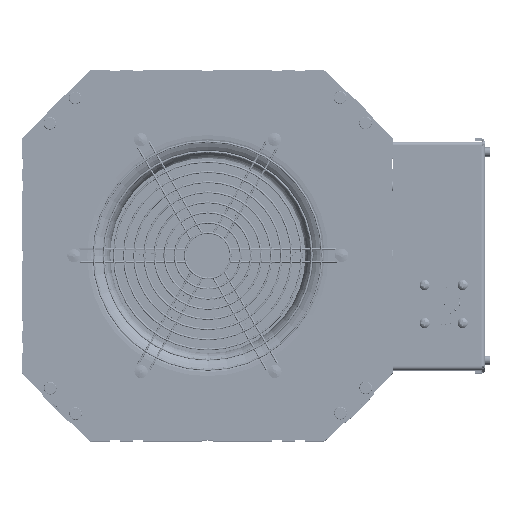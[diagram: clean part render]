
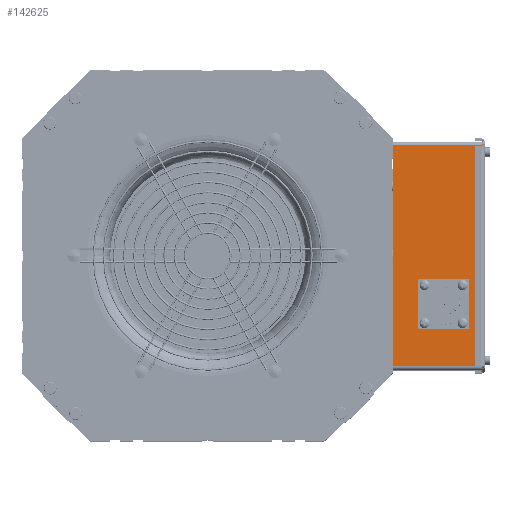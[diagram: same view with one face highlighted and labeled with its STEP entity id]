
A CAD part, top view. The second image highlights one B-rep face of the part: STEP entity #142625.
In plain terms, the highlighted planar face has unit normal (0, 0, 1) as drawn and (-1, 0, 0) by its records, which use the part's own axes.
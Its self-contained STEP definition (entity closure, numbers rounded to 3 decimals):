
#140227=DIRECTION('',(0.,0.,1.));
#140228=VECTOR('',#140227,174.);
#140229=CARTESIAN_POINT('',(-100.,0.,-87.));
#140230=LINE('',#140229,#140228);
#140394=DIRECTION('',(0.,-1.,0.));
#140395=VECTOR('',#140394,70.);
#140396=CARTESIAN_POINT('',(-100.,70.,-87.));
#140397=LINE('',#140396,#140395);
#140398=DIRECTION('',(0.,-1.,0.));
#140399=VECTOR('',#140398,70.);
#140400=CARTESIAN_POINT('',(-100.,70.,87.));
#140401=LINE('',#140400,#140399);
#140402=CARTESIAN_POINT('',(-100.,30.,-38.));
#140403=DIRECTION('',(-1.,0.,0.));
#140404=DIRECTION('',(0.,1.,0.));
#140405=AXIS2_PLACEMENT_3D('',#140402,#140403,#140404);
#140407=CARTESIAN_POINT('',(-100.,30.,-38.));
#140408=DIRECTION('',(-1.,0.,0.));
#140409=DIRECTION('',(0.,-1.,0.));
#140410=AXIS2_PLACEMENT_3D('',#140407,#140408,#140409);
#140412=CARTESIAN_POINT('',(-100.,45.,-53.));
#140413=DIRECTION('',(-1.,0.,0.));
#140414=DIRECTION('',(0.,1.,0.));
#140415=AXIS2_PLACEMENT_3D('',#140412,#140413,#140414);
#140417=CARTESIAN_POINT('',(-100.,45.,-53.));
#140418=DIRECTION('',(-1.,0.,0.));
#140419=DIRECTION('',(0.,-1.,0.));
#140420=AXIS2_PLACEMENT_3D('',#140417,#140418,#140419);
#140422=CARTESIAN_POINT('',(-100.,15.,-53.));
#140423=DIRECTION('',(-1.,0.,0.));
#140424=DIRECTION('',(0.,0.,-1.));
#140425=AXIS2_PLACEMENT_3D('',#140422,#140423,#140424);
#140427=CARTESIAN_POINT('',(-100.,15.,-53.));
#140428=DIRECTION('',(-1.,0.,0.));
#140429=DIRECTION('',(0.,0.,1.));
#140430=AXIS2_PLACEMENT_3D('',#140427,#140428,#140429);
#140432=CARTESIAN_POINT('',(-100.,15.,-23.));
#140433=DIRECTION('',(-1.,0.,0.));
#140434=DIRECTION('',(0.,-1.,0.));
#140435=AXIS2_PLACEMENT_3D('',#140432,#140433,#140434);
#140437=CARTESIAN_POINT('',(-100.,15.,-23.));
#140438=DIRECTION('',(-1.,0.,0.));
#140439=DIRECTION('',(0.,1.,0.));
#140440=AXIS2_PLACEMENT_3D('',#140437,#140438,#140439);
#140442=CARTESIAN_POINT('',(-100.,45.,-23.));
#140443=DIRECTION('',(-1.,0.,0.));
#140444=DIRECTION('',(0.,0.,1.));
#140445=AXIS2_PLACEMENT_3D('',#140442,#140443,#140444);
#140447=CARTESIAN_POINT('',(-100.,45.,-23.));
#140448=DIRECTION('',(-1.,0.,0.));
#140449=DIRECTION('',(0.,0.,-1.));
#140450=AXIS2_PLACEMENT_3D('',#140447,#140448,#140449);
#140484=DIRECTION('',(0.,0.,1.));
#140485=VECTOR('',#140484,174.);
#140486=CARTESIAN_POINT('',(-100.,70.,-87.));
#140487=LINE('',#140486,#140485);
#141958=CARTESIAN_POINT('',(-100.,0.,-87.));
#141960=VERTEX_POINT('',#141958);
#141964=CARTESIAN_POINT('',(-100.,70.,-87.));
#141965=VERTEX_POINT('',#141964);
#141983=CARTESIAN_POINT('',(-100.,0.,87.));
#141985=VERTEX_POINT('',#141983);
#141986=CARTESIAN_POINT('',(-100.,70.,87.));
#141987=VERTEX_POINT('',#141986);
#142262=CARTESIAN_POINT('',(-100.,46.,-38.));
#142263=CARTESIAN_POINT('',(-100.,14.,-38.));
#142264=VERTEX_POINT('',#142262);
#142265=VERTEX_POINT('',#142263);
#142278=CARTESIAN_POINT('',(-100.,46.75,-53.));
#142279=CARTESIAN_POINT('',(-100.,43.25,-53.));
#142280=VERTEX_POINT('',#142278);
#142281=VERTEX_POINT('',#142279);
#142359=CARTESIAN_POINT('',(-100.,15.,-54.75));
#142361=VERTEX_POINT('',#142359);
#142363=CARTESIAN_POINT('',(-100.,15.,-51.25));
#142365=VERTEX_POINT('',#142363);
#142375=CARTESIAN_POINT('',(-100.,13.25,-23.));
#142377=VERTEX_POINT('',#142375);
#142379=CARTESIAN_POINT('',(-100.,16.75,-23.));
#142381=VERTEX_POINT('',#142379);
#142391=CARTESIAN_POINT('',(-100.,45.,-21.25));
#142393=VERTEX_POINT('',#142391);
#142395=CARTESIAN_POINT('',(-100.,45.,-24.75));
#142397=VERTEX_POINT('',#142395);
#142583=CARTESIAN_POINT('',(-100.,0.,-90.));
#142584=DIRECTION('',(-1.,0.,0.));
#142585=DIRECTION('',(0.,0.,1.));
#142586=AXIS2_PLACEMENT_3D('',#142583,#142584,#142585);
#142587=PLANE('',#142586);
#142588=ORIENTED_EDGE('',*,*,#142482,.F.);
#142590=ORIENTED_EDGE('',*,*,#142589,.T.);
#142591=ORIENTED_EDGE('',*,*,#142575,.T.);
#142592=ORIENTED_EDGE('',*,*,#142405,.F.);
#142593=EDGE_LOOP('',(#142588,#142590,#142591,#142592));
#142594=FACE_OUTER_BOUND('',#142593,.F.);
#142596=ORIENTED_EDGE('',*,*,#142595,.T.);
#142598=ORIENTED_EDGE('',*,*,#142597,.T.);
#142599=EDGE_LOOP('',(#142596,#142598));
#142600=FACE_BOUND('',#142599,.F.);
#142602=ORIENTED_EDGE('',*,*,#142601,.T.);
#142604=ORIENTED_EDGE('',*,*,#142603,.T.);
#142605=EDGE_LOOP('',(#142602,#142604));
#142606=FACE_BOUND('',#142605,.F.);
#142608=ORIENTED_EDGE('',*,*,#142607,.T.);
#142610=ORIENTED_EDGE('',*,*,#142609,.T.);
#142611=EDGE_LOOP('',(#142608,#142610));
#142612=FACE_BOUND('',#142611,.F.);
#142614=ORIENTED_EDGE('',*,*,#142613,.T.);
#142616=ORIENTED_EDGE('',*,*,#142615,.T.);
#142617=EDGE_LOOP('',(#142614,#142616));
#142618=FACE_BOUND('',#142617,.F.);
#142620=ORIENTED_EDGE('',*,*,#142619,.T.);
#142622=ORIENTED_EDGE('',*,*,#142621,.T.);
#142623=EDGE_LOOP('',(#142620,#142622));
#142624=FACE_BOUND('',#142623,.F.);
#140406=CIRCLE('',#140405,16.);
#140411=CIRCLE('',#140410,16.);
#140416=CIRCLE('',#140415,1.75);
#140421=CIRCLE('',#140420,1.75);
#140426=CIRCLE('',#140425,1.75);
#140431=CIRCLE('',#140430,1.75);
#140436=CIRCLE('',#140435,1.75);
#140441=CIRCLE('',#140440,1.75);
#140446=CIRCLE('',#140445,1.75);
#140451=CIRCLE('',#140450,1.75);
#142405=EDGE_CURVE('',#141960,#141985,#140230,.T.);
#142482=EDGE_CURVE('',#141965,#141960,#140397,.T.);
#142575=EDGE_CURVE('',#141987,#141985,#140401,.T.);
#142589=EDGE_CURVE('',#141965,#141987,#140487,.T.);
#142595=EDGE_CURVE('',#142264,#142265,#140406,.T.);
#142597=EDGE_CURVE('',#142265,#142264,#140411,.T.);
#142601=EDGE_CURVE('',#142280,#142281,#140416,.T.);
#142603=EDGE_CURVE('',#142281,#142280,#140421,.T.);
#142607=EDGE_CURVE('',#142361,#142365,#140426,.T.);
#142609=EDGE_CURVE('',#142365,#142361,#140431,.T.);
#142613=EDGE_CURVE('',#142377,#142381,#140436,.T.);
#142615=EDGE_CURVE('',#142381,#142377,#140441,.T.);
#142619=EDGE_CURVE('',#142393,#142397,#140446,.T.);
#142621=EDGE_CURVE('',#142397,#142393,#140451,.T.);
#142625=ADVANCED_FACE('',(#142594,#142600,#142606,#142612,#142618,#142624),
#142587,.T.);
